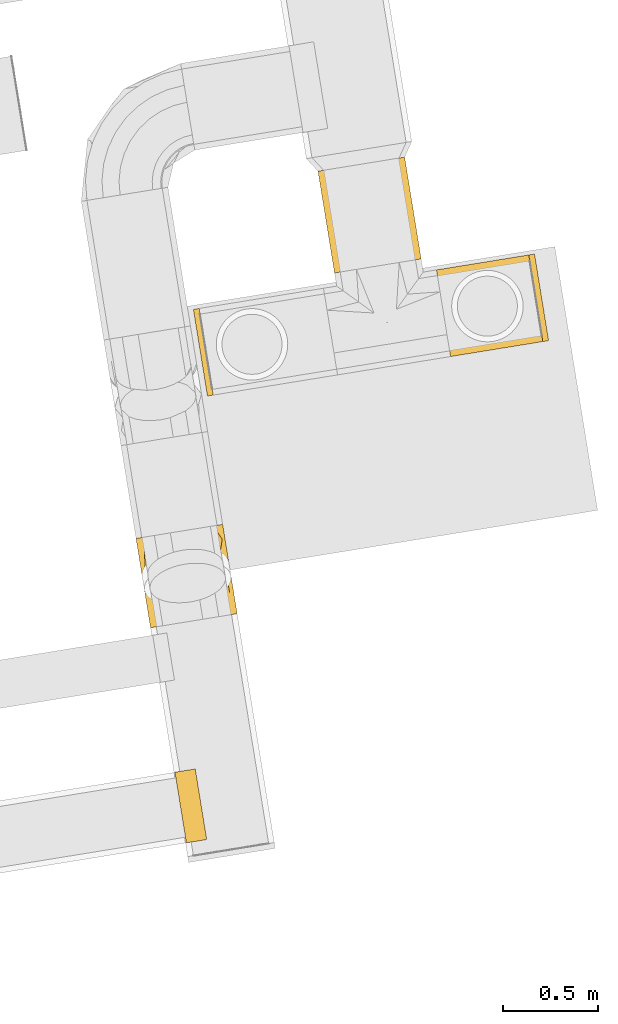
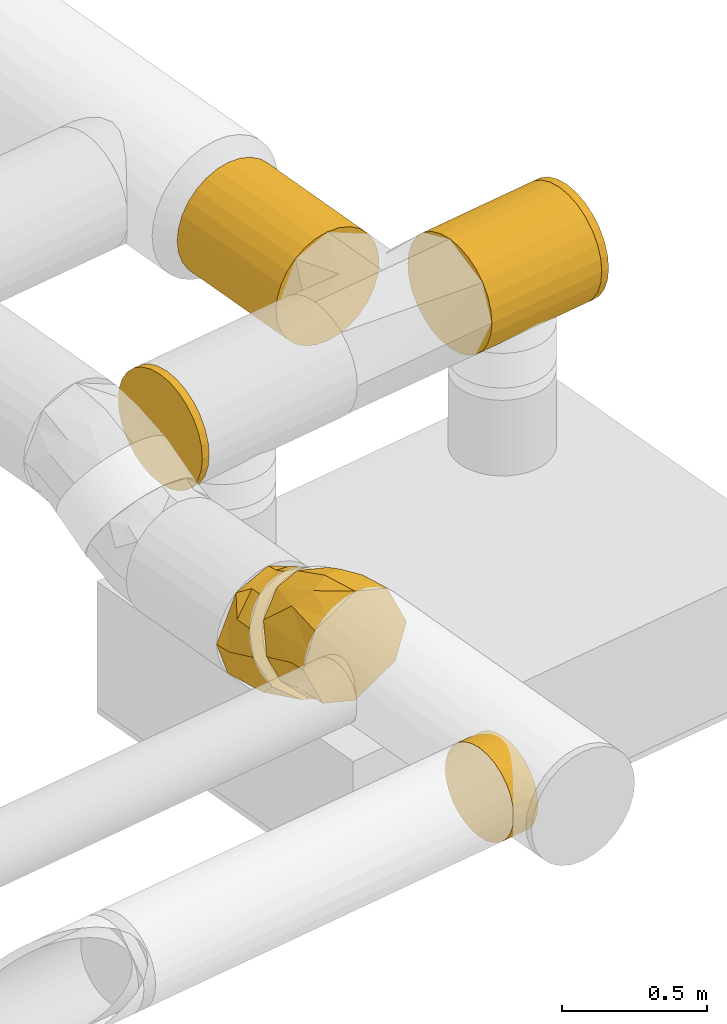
# One storey, part 8 of 39: 7 coverings.
"""IFC2X3 building model written with IfcOpenShell, lengths in millimetres."""

import ifcopenshell
import ifcopenshell.guid

model = None  # the IFC model being written
_history = None  # IfcOwnerHistory: only IFC2X3 demands one
_inside = {}  # id of a spatial element -> (the spatial element, [elements in it])
_under = {}  # id of a project, library or spatial element -> (it, [spatial elements below it])
_declared = {}  # id of a project -> (the project, [libraries it declares])
_typed = {}  # id of a type object -> (the type object, [elements of that type])
_made_of = {}  # id of a material, layer set ... -> (it, [elements and type objects made of it])


def new_model(schema):
    """Start an empty IFC model of exactly this schema.

    Asked for "IFC4X3", IfcOpenShell would pick the latest addendum, in which some entities
    have other attributes; the version numbers below select the first issue.
    IFC2X3 requires an IfcOwnerHistory on every rooted entity: one is made here for all.
    """
    global model, _history
    if schema == "IFC4X3":
        model = ifcopenshell.file(schema_version=(4, 3, 0, 0))
    else:
        model = ifcopenshell.file(schema=schema)
    _inside.clear()
    _under.clear()
    _declared.clear()
    _typed.clear()
    _made_of.clear()
    _history = None
    if model.schema == "IFC2X3":
        org = make("IfcOrganization", Name="unknown")
        user = make(
            "IfcPersonAndOrganization",
            ThePerson=make("IfcPerson", FamilyName="unknown"),
            TheOrganization=org,
        )
        app = make(
            "IfcApplication",
            ApplicationDeveloper=org,
            Version="unknown",
            ApplicationFullName="unknown",
            ApplicationIdentifier="unknown",
        )
        _history = make(
            "IfcOwnerHistory",
            OwningUser=user,
            OwningApplication=app,
            ChangeAction="ADDED",
            CreationDate=0,
        )
    return model


def make(cls, **values):
    """One entity of the class cls with the attributes given. An attribute that is None is left unset."""
    return model.create_entity(
        cls, **{name: value for name, value in values.items() if value is not None}
    )


def entity(cls, *values):
    """Any entity or typed value of the class cls, its attributes in the order of the schema. None: left unset."""
    e = model.create_entity(cls)
    for i, value in enumerate(values):
        if value is not None:
            e[i] = value
    return e


def rooted(cls, **values):
    """An entity with a GlobalId (a new one), such as an element, a storey or a relation."""
    return make(cls, GlobalId=ifcopenshell.guid.new(), OwnerHistory=_history, **values)


def si_unit(unit_type, name, prefix=None):
    """IfcSIUnit, for example si_unit("LENGTHUNIT", "METRE", prefix="MILLI")."""
    return make("IfcSIUnit", UnitType=unit_type, Prefix=prefix, Name=name)


def converted_unit(unit_type, name, factor, base, dimensions=None, offset=None):
    """IfcConversionBasedUnit, such as the inch: factor (a typed value) times the base unit."""
    return make(
        "IfcConversionBasedUnit"
        if offset is None
        else "IfcConversionBasedUnitWithOffset",
        ConversionOffset=offset,
        Dimensions=None
        if dimensions is None
        else entity("IfcDimensionalExponents", *dimensions),
        UnitType=unit_type,
        Name=name,
        ConversionFactor=make(
            "IfcMeasureWithUnit", ValueComponent=factor, UnitComponent=base
        ),
    )


def derived_unit(unit_type, elements):
    """IfcDerivedUnit: a product of units, each with its exponent."""
    return make(
        "IfcDerivedUnit",
        Elements=[
            make("IfcDerivedUnitElement", Unit=unit, Exponent=power)
            for unit, power in elements
        ],
        UnitType=unit_type,
    )


def assignment(units):
    """IfcUnitAssignment: the units of a project."""
    return None if units is None else make("IfcUnitAssignment", Units=units)


def point(xyz):
    """IfcCartesianPoint."""
    return None if xyz is None else make("IfcCartesianPoint", Coordinates=xyz)


def direction(xyz):
    """IfcDirection."""
    return None if xyz is None else make("IfcDirection", DirectionRatios=xyz)


def frame(location, z_axis=None, x_axis=None):
    """IfcAxis2Placement3D, a coordinate frame: its origin and axes. An axis left out is left unset."""
    return make(
        "IfcAxis2Placement3D",
        Location=point(location),
        Axis=direction(z_axis),
        RefDirection=direction(x_axis),
    )


def origin():
    """The frame at (0, 0, 0) with its axes left unset."""
    return frame((0.0, 0.0, 0.0))


def origin_with_axes():
    """The frame at (0, 0, 0) with the z axis (0, 0, 1) and the x axis (1, 0, 0) written out."""
    return frame((0.0, 0.0, 0.0), z_axis=(0.0, 0.0, 1.0), x_axis=(1.0, 0.0, 0.0))


def place(relative_to, where):
    """IfcLocalPlacement: puts the frame where relative to a parent placement (None: the world)."""
    return make(
        "IfcLocalPlacement", PlacementRelTo=relative_to, RelativePlacement=where
    )


def context(
    kind, dimensions, precision=None, world=None, true_north=None, identifier=None
):
    """IfcGeometricRepresentationContext, for example the 3D "Model" context."""
    return make(
        "IfcGeometricRepresentationContext",
        ContextIdentifier=identifier,
        ContextType=kind,
        CoordinateSpaceDimension=dimensions,
        Precision=precision,
        WorldCoordinateSystem=world,
        TrueNorth=true_north,
    )


def subcontext(parent, identifier, kind, view, scale=None):
    """IfcGeometricRepresentationSubContext, for example "Body" below "Model"."""
    return make(
        "IfcGeometricRepresentationSubContext",
        ContextIdentifier=identifier,
        ContextType=kind,
        ParentContext=parent,
        TargetScale=scale,
        TargetView=view,
    )


def project(units=None, contexts=None):
    """IfcProject with its units and contexts."""
    return rooted(
        "IfcProject",
        Name="project",
        RepresentationContexts=contexts,
        UnitsInContext=assignment(units),
    )


def spatial(cls, under=None, at=None, **own):
    """A site, building, storey or space (cls), placed at a placement, below another one or the project."""
    s = rooted(cls, ObjectPlacement=at, **own)
    if under is not None:
        _under.setdefault(under.id(), (under, []))[1].append(s)
    return s


def faces_of(points, faces, orient=None, outer=None):
    """IfcFace entities. A face is a list of loops; a loop is a list of indices into points, from 0.

    orient and outer hold one flag for each loop. By default every Orientation is true, the
    first loop of a face is its IfcFaceOuterBound and the others are IfcFaceBound.
    """
    made = []
    for i, loops in enumerate(faces):
        bounds = []
        for j, loop in enumerate(loops):
            is_outer = j == 0 if outer is None else outer[i][j]
            bounds.append(
                make(
                    "IfcFaceOuterBound" if is_outer else "IfcFaceBound",
                    Bound=make("IfcPolyLoop", Polygon=[points[k] for k in loop]),
                    Orientation=True if orient is None else orient[i][j],
                )
            )
        made.append(make("IfcFace", Bounds=bounds))
    return made


def faceted_brep(points, faces, orient=None, outer=None, voids=None):
    """IfcFacetedBrep: a solid bounded by flat faces; with voids (closed shells), ...WithVoids."""
    shared = [point(p) for p in points]
    hull = make("IfcClosedShell", CfsFaces=faces_of(shared, faces, orient, outer))
    if voids is None:
        return make("IfcFacetedBrep", Outer=hull)
    return make(
        "IfcFacetedBrepWithVoids",
        Outer=hull,
        Voids=[
            make(cls, CfsFaces=faces_of(shared, fs, o, b)) for cls, fs, o, b in voids
        ],
    )


def shape(context_of_items, identifier, shape_type, items):
    """IfcShapeRepresentation: the items that make up one representation, for example the "Body"."""
    return make(
        "IfcShapeRepresentation",
        ContextOfItems=context_of_items,
        RepresentationIdentifier=identifier,
        RepresentationType=shape_type,
        Items=items,
    )


def made_of(thing, what):
    """Note that an element or type object is made of a material, layer set ...; save() writes the relation."""
    if what is not None:
        _made_of.setdefault(what.id(), (what, []))[1].append(thing)
    return thing


def type_object(cls, material=None, **own):
    """A type object (cls), such as IfcWallType, which elements share."""
    return made_of(rooted(cls, **own), material)


def element(
    cls,
    number,
    at=None,
    inside=None,
    cuts=None,
    type_object=None,
    material=None,
    context=None,
    identifier="Body",
    shape_type=None,
    held_by="IfcProductDefinitionShape",
    body=None,
    shapes=None,
    **own,
):
    """One element of the class cls, such as IfcWall. Its Tag is "e" and its number.

    at: its placement. inside: the storey or other place that contains it. cuts: it is an
    opening in that element (IfcRelVoidsElement). A single representation is given by context,
    identifier, shape_type and body (its items); several are given by shapes. held_by: the class
    of the entity that holds the representations. save() writes the other relations.
    """
    e = rooted(cls, Tag="e%d" % number, ObjectPlacement=at, **own)
    if body is not None:
        shapes = [shape(context, identifier, shape_type, body)]
    if shapes is not None:
        e.Representation = make(held_by, Representations=shapes)
    if inside is not None:
        _inside.setdefault(inside.id(), (inside, []))[1].append(e)
    if cuts is not None:
        rooted(
            "IfcRelVoidsElement", RelatingBuildingElement=cuts, RelatedOpeningElement=e
        )
    if type_object is not None:
        _typed.setdefault(type_object.id(), (type_object, []))[1].append(e)
    return made_of(e, material)


def aggregate(whole, parts):
    """IfcRelAggregates: a whole, such as a stair, and the parts it consists of."""
    return rooted("IfcRelAggregates", RelatingObject=whole, RelatedObjects=parts)


def save(model, path):
    """Write the relations noted so far, then the file.

    IfcRelAggregates (storeys below a building ...), IfcRelContainedInSpatialStructure (elements
    in a storey), IfcRelDefinesByType, IfcRelAssociatesMaterial and IfcRelDeclares: one each for
    every whole, place, type object, material and project.
    """
    for whole, parts in _under.values():
        aggregate(whole, parts)
    for where, things in _inside.values():
        rooted(
            "IfcRelContainedInSpatialStructure",
            RelatedElements=things,
            RelatingStructure=where,
        )
    for kind, things in _typed.values():
        rooted("IfcRelDefinesByType", RelatedObjects=things, RelatingType=kind)
    for what, things in _made_of.values():
        rooted("IfcRelAssociatesMaterial", RelatedObjects=things, RelatingMaterial=what)
    for by, libraries in _declared.values():
        rooted("IfcRelDeclares", RelatingContext=by, RelatedDefinitions=libraries)
    model.write(path)


model = new_model("IFC2X3")

# Units and contexts
model_context = context("Model", 3, precision=0.01, world=origin(), true_north=direction((6.12323399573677e-17, 1.0)))
plan_context = context("Plan", 3, precision=1e-05, world=origin_with_axes())
body_context = subcontext(model_context, "Body", "Model", "MODEL_VIEW")
ifc_project = project(units=[converted_unit("PLANEANGLEUNIT", "DEGREE", entity("IfcPositiveLengthMeasure", 0.0174532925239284), si_unit("PLANEANGLEUNIT", "RADIAN"), dimensions=[0, 0, 0, 0, 0, 0, 0]), si_unit("AREAUNIT", "SQUARE_METRE"), si_unit("LENGTHUNIT", "METRE", prefix="MILLI"), si_unit("MASSUNIT", "GRAM", prefix="KILO"), si_unit("POWERUNIT", "WATT"), si_unit("PRESSUREUNIT", "PASCAL", prefix="KILO"), si_unit("FORCEUNIT", "NEWTON", prefix="KILO"), si_unit("ELECTRICVOLTAGEUNIT", "VOLT"), si_unit("ELECTRICCURRENTUNIT", "AMPERE"), si_unit("THERMODYNAMICTEMPERATUREUNIT", "DEGREE_CELSIUS"), si_unit("TIMEUNIT", "SECOND"), si_unit("VOLUMEUNIT", "CUBIC_METRE"), derived_unit("LINEARVELOCITYUNIT", [(si_unit("LENGTHUNIT", "METRE"), 1), (si_unit("TIMEUNIT", "SECOND"), -1)]), derived_unit("VOLUMETRICFLOWRATEUNIT", [(si_unit("VOLUMEUNIT", "CUBIC_METRE"), 1), (si_unit("TIMEUNIT", "SECOND"), -1)]), derived_unit("THERMALTRANSMITTANCEUNIT", [(si_unit("POWERUNIT", "WATT"), 1), (si_unit("THERMODYNAMICTEMPERATUREUNIT", "KELVIN"), -1), (si_unit("AREAUNIT", "SQUARE_METRE"), -1)]), derived_unit("SOUNDPRESSUREUNIT", [(si_unit("PRESSUREUNIT", "PASCAL"), 1)])], contexts=[model_context, plan_context])

# Site, building, storey
site_placement = place(None, frame((-0.00071070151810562, 0.00438415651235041, 0.0), z_axis=(0.0, 0.0, 1.0), x_axis=(-0.160236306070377, 0.987078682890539, 0.0)))
site = spatial("IfcSite", under=ifc_project, at=site_placement, Name="Default", CompositionType="ELEMENT")
building_placement = place(site_placement, origin_with_axes())
building = spatial("IfcBuilding", under=site, at=building_placement, CompositionType="ELEMENT")
storey_placement = place(building_placement, frame((0.0, 0.0, 50999.9999999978), z_axis=(0.0, 0.0, 1.0), x_axis=(1.0, 0.0, 0.0)))
storey = spatial("IfcBuildingStorey", under=building, at=storey_placement, Name="Nivå D", CompositionType="ELEMENT", Elevation=50999.9999999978)

# Coverings
covering_type = type_object("IfcCoveringType", Name="Duct Insulation:EI 60-30", PredefinedType="INSULATION")
covering_1_placement = place(storey_placement, frame((771340.02437183, -602762.905078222, 3068.40472776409), z_axis=(0.0, 0.0, 1.0), x_axis=(1.0, 0.0, 0.0)))
element("IfcCovering", 1, at=covering_1_placement, inside=storey, type_object=covering_type, Name="Duct Insulation:EI 60-30", ObjectType="Duct Insulation:EI 60-30", PredefinedType="INSULATION", context=body_context, shape_type="Brep", body=[
    faceted_brep([(131.802012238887, 490.0, 438.818111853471), (180.415457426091, 490.0, 455.828692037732), (231.595272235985, 490.0, 461.595272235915), (282.775087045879, 490.0, 455.828692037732), (331.388532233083, 490.0, 438.818111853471), (374.997926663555, 490.0, 411.416513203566), (411.416513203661, 490.0, 374.997926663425), (438.818111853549, 490.0, 331.388532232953), (455.828692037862, 490.0, 282.77508704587), (461.595272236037, 490.0, 231.595272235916), (455.828692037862, 490.0, 180.415457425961), (438.818111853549, 490.0, 131.802012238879), (411.416513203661, 490.0, 88.1926178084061), (374.997926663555, 490.0, 51.774031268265), (331.388532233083, 490.0, 24.3724326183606), (282.775087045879, 490.0, 7.36185243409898), (231.595272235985, 490.0, 1.5952722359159), (180.415457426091, 490.0, 7.36185243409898), (131.802012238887, 490.0, 24.3724326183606), (88.1926178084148, 490.0, 51.774031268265), (51.7740312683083, 490.0, 88.1926178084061), (24.3724326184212, 490.0, 131.802012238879), (7.36185243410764, 490.0, 180.415457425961), (1.59527223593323, 490.0, 231.595272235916), (7.36185243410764, 490.0, 282.77508704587), (24.3724326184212, 490.0, 331.388532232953), (51.7740312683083, 490.0, 374.997926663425), (88.1926178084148, 490.0, 411.416513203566), (51.7740312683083, 0.0, 374.997926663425), (24.3724326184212, 0.0, 331.388532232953), (7.36185243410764, 0.0, 282.77508704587), (1.59527223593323, 0.0, 231.595272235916), (7.36185243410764, 0.0, 180.415457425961), (24.3724326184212, 0.0, 131.802012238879), (51.7740312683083, 0.0, 88.1926178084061), (88.1926178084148, 0.0, 51.774031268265), (131.802012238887, 0.0, 24.3724326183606), (180.415457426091, 0.0, 7.36185243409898), (231.595272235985, 0.0, 1.5952722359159), (282.775087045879, 0.0, 7.36185243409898), (331.388532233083, 0.0, 24.3724326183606), (374.997926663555, 0.0, 51.774031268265), (411.416513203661, 0.0, 88.1926178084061), (438.818111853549, 0.0, 131.802012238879), (455.828692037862, 0.0, 180.415457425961), (461.595272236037, 0.0, 231.595272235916), (455.828692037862, 0.0, 282.77508704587), (438.818111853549, 0.0, 331.388532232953), (411.416513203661, 0.0, 374.997926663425), (374.997926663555, 0.0, 411.416513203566), (331.388532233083, 0.0, 438.818111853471), (282.775087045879, 0.0, 455.828692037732), (231.595272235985, 0.0, 461.595272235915), (180.415457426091, 0.0, 455.828692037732), (131.802012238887, 0.0, 438.818111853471), (88.1926178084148, 0.0, 411.416513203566)], [[[0, 1, 2, 3, 4, 5, 6, 7, 8, 9, 10, 11, 12, 13, 14, 15, 16, 17, 18, 19, 20, 21, 22, 23, 24, 25, 26, 27]], [[28, 29, 30, 31, 32, 33, 34, 35, 36, 37, 38, 39, 40, 41, 42, 43, 44, 45, 46, 47, 48, 49, 50, 51, 52, 53, 54, 55]], [[45, 44, 10, 9]], [[44, 43, 11, 10]], [[12, 11, 43, 42]], [[42, 41, 13, 12]], [[14, 13, 41, 40]], [[15, 14, 40, 39]], [[16, 15, 39, 38]], [[17, 16, 38, 37]], [[18, 17, 37, 36]], [[19, 18, 36, 35]], [[35, 34, 20, 19]], [[21, 20, 34, 33]], [[22, 21, 33, 32]], [[23, 22, 32, 31]], [[24, 23, 31, 30]], [[25, 24, 30, 29]], [[26, 25, 29, 28]], [[28, 55, 27, 26]], [[0, 27, 55, 54]], [[1, 0, 54, 53]], [[2, 1, 53, 52]], [[3, 2, 52, 51]], [[4, 3, 51, 50]], [[5, 4, 50, 49]], [[49, 48, 6, 5]], [[7, 6, 48, 47]], [[8, 7, 47, 46]], [[9, 8, 46, 45]]]),
])
covering_2_placement = place(storey_placement, frame((771871.619644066, -602204.500350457, 3068.40472776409), z_axis=(0.0, 0.0, 1.0), x_axis=(1.0, 0.0, 0.0)))
element("IfcCovering", 2, at=covering_2_placement, inside=storey, type_object=covering_type, Name="Duct Insulation:EI 60-30", ObjectType="Duct Insulation:EI 60-30", PredefinedType="INSULATION", context=body_context, shape_type="Brep", body=[
    faceted_brep([(540.312480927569, 438.818111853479, 131.802012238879), (540.312480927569, 455.828692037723, 180.415457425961), (540.312480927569, 461.595272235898, 231.595272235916), (540.312480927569, 455.828692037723, 282.77508704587), (540.312480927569, 438.818111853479, 331.388532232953), (540.312480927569, 411.416513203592, 374.997926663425), (540.312480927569, 374.997926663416, 411.416513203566), (540.312480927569, 331.388532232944, 438.818111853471), (540.312480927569, 282.775087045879, 455.828692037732), (540.312480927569, 231.595272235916, 461.595272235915), (540.312480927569, 180.415457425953, 455.828692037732), (540.312480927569, 131.802012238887, 438.818111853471), (540.312480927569, 88.1926178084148, 411.416513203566), (540.312480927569, 51.774031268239, 374.997926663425), (540.312480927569, 24.3724326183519, 331.388532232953), (540.312480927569, 7.36185243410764, 282.77508704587), (540.312480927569, 1.59527223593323, 231.595272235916), (540.312480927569, 7.36185243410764, 180.415457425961), (540.312480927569, 24.3724326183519, 131.802012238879), (540.312480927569, 51.774031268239, 88.1926178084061), (540.312480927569, 88.1926178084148, 51.774031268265), (540.312480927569, 131.802012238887, 24.3724326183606), (540.312480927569, 180.415457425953, 7.36185243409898), (540.312480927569, 231.595272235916, 1.5952722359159), (540.312480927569, 282.775087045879, 7.36185243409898), (540.312480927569, 331.388532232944, 24.3724326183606), (540.312480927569, 374.997926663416, 51.774031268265), (540.312480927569, 411.416513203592, 88.1926178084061), (0.0, 374.997926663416, 51.774031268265), (0.0, 331.388532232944, 24.3724326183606), (0.0, 282.775087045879, 7.36185243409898), (0.0, 231.595272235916, 1.5952722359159), (0.0, 180.415457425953, 7.36185243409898), (0.0, 131.802012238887, 24.3724326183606), (0.0, 88.1926178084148, 51.774031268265), (0.0, 51.774031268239, 88.1926178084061), (0.0, 24.3724326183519, 131.802012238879), (0.0, 7.36185243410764, 180.415457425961), (0.0, 1.59527223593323, 231.595272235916), (0.0, 7.36185243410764, 282.77508704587), (0.0, 24.3724326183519, 331.388532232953), (0.0, 51.774031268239, 374.997926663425), (0.0, 88.1926178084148, 411.416513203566), (0.0, 131.802012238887, 438.818111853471), (0.0, 180.415457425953, 455.828692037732), (0.0, 231.595272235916, 461.595272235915), (0.0, 282.775087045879, 455.828692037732), (0.0, 331.388532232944, 438.818111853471), (0.0, 374.997926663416, 411.416513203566), (0.0, 411.416513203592, 374.997926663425), (0.0, 438.818111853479, 331.388532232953), (0.0, 455.828692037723, 282.77508704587), (0.0, 461.595272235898, 231.595272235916), (0.0, 455.828692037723, 180.415457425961), (0.0, 438.818111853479, 131.802012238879), (0.0, 411.416513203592, 88.1926178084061)], [[[0, 1, 2, 3, 4, 5, 6, 7, 8, 9, 10, 11, 12, 13, 14, 15, 16, 17, 18, 19, 20, 21, 22, 23, 24, 25, 26, 27]], [[28, 29, 30, 31, 32, 33, 34, 35, 36, 37, 38, 39, 40, 41, 42, 43, 44, 45, 46, 47, 48, 49, 50, 51, 52, 53, 54, 55]], [[38, 37, 17, 16]], [[37, 36, 18, 17]], [[19, 18, 36, 35]], [[35, 34, 20, 19]], [[21, 20, 34, 33]], [[22, 21, 33, 32]], [[23, 22, 32, 31]], [[24, 23, 31, 30]], [[25, 24, 30, 29]], [[26, 25, 29, 28]], [[28, 55, 27, 26]], [[0, 27, 55, 54]], [[1, 0, 54, 53]], [[2, 1, 53, 52]], [[3, 2, 52, 51]], [[4, 3, 51, 50]], [[5, 4, 50, 49]], [[49, 48, 6, 5]], [[7, 6, 48, 47]], [[8, 7, 47, 46]], [[9, 8, 46, 45]], [[10, 9, 45, 44]], [[11, 10, 44, 43]], [[12, 11, 43, 42]], [[42, 41, 13, 12]], [[14, 13, 41, 40]], [[15, 14, 40, 39]], [[16, 15, 39, 38]]]),
])
covering_3_placement = place(storey_placement, frame((771340.02437183, -602793.705078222, 3068.40472776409), z_axis=(0.0, 0.0, 1.0), x_axis=(1.0, 0.0, 0.0)))
element("IfcCovering", 3, at=covering_3_placement, inside=storey, type_object=covering_type, Name="Duct Insulation:EI 60-30", ObjectType="Duct Insulation:EI 60-30", PredefinedType="INSULATION", context=body_context, shape_type="Brep", body=[
    faceted_brep([(282.775087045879, 0.0, 7.36185243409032), (331.388532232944, 0.0, 24.3724326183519), (374.997926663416, 0.0, 51.774031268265), (411.416513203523, 0.0, 88.1926178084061), (438.81811185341, 0.0, 131.802012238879), (455.828692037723, 0.0, 180.415457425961), (461.595272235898, 0.0, 231.595272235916), (455.828692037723, 0.0, 282.77508704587), (438.81811185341, 0.0, 331.388532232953), (411.416513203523, 0.0, 374.997926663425), (374.997926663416, 0.0, 411.416513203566), (331.388532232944, 0.0, 438.818111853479), (282.775087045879, 0.0, 455.828692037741), (231.595272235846, 0.0, 461.595272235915), (180.415457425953, 0.0, 455.828692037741), (131.802012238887, 0.0, 438.818111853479), (88.1926178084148, 0.0, 411.416513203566), (51.7740312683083, 0.0, 374.997926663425), (24.3724326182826, 0.0, 331.388532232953), (7.36185243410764, 0.0, 282.77508704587), (1.59527223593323, 0.0, 231.595272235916), (7.36185243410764, 0.0, 180.415457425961), (24.3724326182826, 0.0, 131.802012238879), (51.7740312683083, 0.0, 88.1926178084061), (88.1926178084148, 0.0, 51.774031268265), (131.802012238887, 0.0, 24.3724326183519), (180.415457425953, 0.0, 7.36185243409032), (231.595272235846, 0.0, 1.5952722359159), (180.415457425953, 30.8000000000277, 455.828692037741), (231.595272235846, 30.8000000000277, 461.595272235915), (282.775087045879, 30.8000000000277, 455.828692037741), (331.388532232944, 30.8000000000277, 438.818111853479), (374.997926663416, 30.8000000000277, 411.416513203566), (411.416513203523, 30.8000000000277, 374.997926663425), (438.81811185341, 30.8000000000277, 331.388532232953), (455.828692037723, 30.8000000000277, 282.77508704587), (461.595272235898, 30.8000000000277, 231.595272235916), (455.828692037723, 30.8000000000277, 180.415457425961), (438.81811185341, 30.8000000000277, 131.802012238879), (411.416513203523, 30.8000000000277, 88.1926178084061), (374.997926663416, 30.8000000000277, 51.774031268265), (331.388532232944, 30.8000000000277, 24.3724326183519), (282.775087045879, 30.8000000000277, 7.36185243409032), (231.595272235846, 30.8000000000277, 1.5952722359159), (180.415457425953, 30.8000000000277, 7.36185243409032), (131.802012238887, 30.8000000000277, 24.3724326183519), (88.1926178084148, 30.8000000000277, 51.774031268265), (51.7740312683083, 30.8000000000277, 88.1926178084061), (24.3724326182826, 30.8000000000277, 131.802012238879), (7.36185243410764, 30.8000000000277, 180.415457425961), (1.59527223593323, 30.8000000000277, 231.595272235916), (7.36185243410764, 30.8000000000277, 282.77508704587), (24.3724326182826, 30.8000000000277, 331.388532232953), (51.7740312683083, 30.8000000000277, 374.997926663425), (88.1926178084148, 30.8000000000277, 411.416513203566), (131.802012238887, 30.8000000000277, 438.818111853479)], [[[0, 1, 2, 3, 4, 5, 6, 7, 8, 9, 10, 11, 12, 13, 14, 15, 16, 17, 18, 19, 20, 21, 22, 23, 24, 25, 26, 27]], [[28, 29, 30, 31, 32, 33, 34, 35, 36, 37, 38, 39, 40, 41, 42, 43, 44, 45, 46, 47, 48, 49, 50, 51, 52, 53, 54, 55]], [[7, 6, 36, 35]], [[35, 34, 8, 7]], [[33, 9, 8, 34]], [[33, 32, 10, 9]], [[11, 10, 32, 31]], [[11, 31, 30, 12]], [[12, 30, 29, 13]], [[14, 13, 29, 28]], [[28, 55, 15, 14]], [[54, 16, 15, 55]], [[54, 53, 17, 16]], [[53, 52, 18, 17]], [[52, 51, 19, 18]], [[19, 51, 50, 20]], [[21, 20, 50, 49]], [[49, 48, 22, 21]], [[47, 23, 22, 48]], [[47, 46, 24, 23]], [[25, 24, 46, 45]], [[44, 43, 27, 26]], [[26, 25, 45, 44]], [[0, 27, 43, 42]], [[42, 41, 1, 0]], [[40, 2, 1, 41]], [[40, 39, 3, 2]], [[4, 3, 39, 38]], [[38, 37, 5, 4]], [[36, 6, 5, 37]]]),
])
covering_4_placement = place(storey_placement, frame((771340.02437183, -601012.905078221, 3068.40472776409), z_axis=(0.0, 0.0, 1.0), x_axis=(1.0, 0.0, 0.0)))
element("IfcCovering", 4, at=covering_4_placement, inside=storey, type_object=covering_type, Name="Duct Insulation:EI 60-30", ObjectType="Duct Insulation:EI 60-30", PredefinedType="INSULATION", context=body_context, shape_type="Brep", body=[
    faceted_brep([(180.415457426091, 30.8000000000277, 7.36185243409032), (131.802012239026, 30.8000000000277, 24.3724326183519), (88.1926178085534, 30.8000000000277, 51.774031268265), (51.7740312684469, 30.8000000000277, 88.1926178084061), (24.3724326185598, 30.8000000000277, 131.802012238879), (7.36185243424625, 30.8000000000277, 180.415457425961), (1.59527223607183, 30.8000000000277, 231.595272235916), (7.36185243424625, 30.8000000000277, 282.77508704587), (24.3724326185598, 30.8000000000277, 331.388532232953), (51.7740312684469, 30.8000000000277, 374.997926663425), (88.1926178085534, 30.8000000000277, 411.416513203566), (131.802012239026, 30.8000000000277, 438.818111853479), (180.415457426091, 30.8000000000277, 455.828692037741), (231.595272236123, 30.8000000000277, 461.595272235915), (282.775087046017, 30.8000000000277, 455.828692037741), (331.388532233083, 30.8000000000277, 438.818111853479), (374.997926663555, 30.8000000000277, 411.416513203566), (411.416513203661, 30.8000000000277, 374.997926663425), (438.818111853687, 30.8000000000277, 331.388532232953), (455.828692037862, 30.8000000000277, 282.77508704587), (461.595272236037, 30.8000000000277, 231.595272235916), (455.828692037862, 30.8000000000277, 180.415457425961), (438.818111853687, 30.8000000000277, 131.802012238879), (411.416513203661, 30.8000000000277, 88.1926178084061), (374.997926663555, 30.8000000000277, 51.774031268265), (331.388532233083, 30.8000000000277, 24.3724326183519), (282.775087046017, 30.8000000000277, 7.36185243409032), (231.595272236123, 30.8000000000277, 1.5952722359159), (282.775087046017, 0.0, 455.828692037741), (231.595272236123, 0.0, 461.595272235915), (180.415457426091, 0.0, 455.828692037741), (131.802012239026, 0.0, 438.818111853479), (88.1926178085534, 0.0, 411.416513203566), (51.7740312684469, 0.0, 374.997926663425), (24.3724326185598, 0.0, 331.388532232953), (7.36185243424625, 0.0, 282.77508704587), (1.59527223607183, 0.0, 231.595272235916), (7.36185243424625, 0.0, 180.415457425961), (24.3724326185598, 0.0, 131.802012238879), (51.7740312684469, 0.0, 88.1926178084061), (88.1926178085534, 0.0, 51.774031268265), (131.802012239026, 0.0, 24.3724326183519), (180.415457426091, 0.0, 7.36185243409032), (231.595272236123, 0.0, 1.5952722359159), (282.775087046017, 0.0, 7.36185243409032), (331.388532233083, 0.0, 24.3724326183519), (374.997926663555, 0.0, 51.774031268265), (411.416513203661, 0.0, 88.1926178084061), (438.818111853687, 0.0, 131.802012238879), (455.828692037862, 0.0, 180.415457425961), (461.595272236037, 0.0, 231.595272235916), (455.828692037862, 0.0, 282.77508704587), (438.818111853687, 0.0, 331.388532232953), (411.416513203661, 0.0, 374.997926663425), (374.997926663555, 0.0, 411.416513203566), (331.388532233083, 0.0, 438.818111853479)], [[[0, 1, 2, 3, 4, 5, 6, 7, 8, 9, 10, 11, 12, 13, 14, 15, 16, 17, 18, 19, 20, 21, 22, 23, 24, 25, 26, 27]], [[28, 29, 30, 31, 32, 33, 34, 35, 36, 37, 38, 39, 40, 41, 42, 43, 44, 45, 46, 47, 48, 49, 50, 51, 52, 53, 54, 55]], [[7, 6, 36, 35]], [[35, 34, 8, 7]], [[33, 9, 8, 34]], [[33, 32, 10, 9]], [[11, 10, 32, 31]], [[11, 31, 30, 12]], [[12, 30, 29, 13]], [[14, 13, 29, 28]], [[28, 55, 15, 14]], [[54, 16, 15, 55]], [[54, 53, 17, 16]], [[53, 52, 18, 17]], [[52, 51, 19, 18]], [[19, 51, 50, 20]], [[21, 20, 50, 49]], [[49, 48, 22, 21]], [[47, 23, 22, 48]], [[47, 46, 24, 23]], [[25, 24, 46, 45]], [[44, 43, 27, 26]], [[26, 25, 45, 44]], [[0, 27, 43, 42]], [[42, 41, 1, 0]], [[40, 2, 1, 41]], [[40, 39, 3, 2]], [[4, 3, 39, 38]], [[38, 37, 5, 4]], [[36, 6, 5, 37]]]),
])
covering_5_placement = place(storey_placement, frame((769045.737380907, -600605.738147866, 3060.90472776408), z_axis=(0.0, 0.0, 1.0), x_axis=(1.0, 0.0, 0.0)))
element("IfcCovering", 5, at=covering_5_placement, inside=storey, type_object=covering_type, Name="Duct Insulation:EI 60-30", ObjectType="Duct Insulation:EI 60-30", PredefinedType="INSULATION", context=body_context, shape_type="Brep", body=[
    faceted_brep([(270.448473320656, 0.0, 20.1636095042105), (305.999610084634, 0.0, 42.5018692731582), (335.688675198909, 0.0, 72.1909343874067), (358.026934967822, 0.0, 107.742071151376), (371.894255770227, 0.0, 147.372597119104), (376.595272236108, 0.0, 189.095272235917), (371.894255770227, 0.0, 230.817947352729), (358.026934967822, 0.0, 270.448473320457), (335.688675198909, 0.0, 305.999610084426), (305.999610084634, 0.0, 335.688675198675), (270.448473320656, 0.0, 358.026934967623), (230.817947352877, 0.0, 371.894255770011), (189.095272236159, 0.0, 376.595272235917), (147.372597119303, 0.0, 371.894255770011), (107.742071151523, 0.0, 358.026934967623), (72.1909343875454, 0.0, 335.688675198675), (42.5018692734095, 0.0, 305.999610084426), (20.1636095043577, 0.0, 270.448473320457), (6.29628870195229, 0.0, 230.817947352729), (1.59527223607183, 0.0, 189.095272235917), (6.29628870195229, 0.0, 147.372597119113), (20.1636095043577, 0.0, 107.742071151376), (42.5018692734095, 0.0, 72.1909343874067), (72.1909343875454, 0.0, 42.5018692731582), (107.742071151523, 0.0, 20.1636095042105), (147.372597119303, 0.0, 6.29628870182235), (189.095272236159, 0.0, 1.5952722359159), (230.817947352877, 0.0, 6.29628870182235), (147.372597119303, 107.833069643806, 371.894255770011), (189.095272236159, 107.833069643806, 376.595272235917), (230.817947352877, 107.833069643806, 371.894255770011), (270.448473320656, 107.833069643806, 358.026934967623), (305.999610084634, 107.833069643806, 335.688675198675), (335.688675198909, 107.833069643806, 305.999610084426), (358.026934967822, 107.833069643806, 270.448473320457), (371.894255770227, 107.833069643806, 230.817947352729), (376.595272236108, 107.833069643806, 189.095272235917), (371.894255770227, 107.833069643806, 147.372597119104), (358.026934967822, 107.833069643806, 107.742071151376), (335.688675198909, 107.833069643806, 72.1909343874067), (305.999610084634, 107.833069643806, 42.5018692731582), (270.448473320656, 107.833069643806, 20.1636095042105), (230.817947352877, 107.833069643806, 6.29628870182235), (189.095272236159, 107.833069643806, 1.5952722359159), (147.372597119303, 107.833069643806, 6.29628870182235), (107.742071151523, 107.833069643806, 20.1636095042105), (72.1909343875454, 107.833069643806, 42.5018692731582), (42.5018692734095, 107.833069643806, 72.1909343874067), (20.1636095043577, 107.833069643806, 107.742071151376), (6.29628870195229, 107.833069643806, 147.372597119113), (1.59527223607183, 107.833069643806, 189.095272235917), (6.29628870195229, 107.833069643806, 230.817947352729), (20.1636095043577, 107.833069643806, 270.448473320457), (42.5018692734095, 107.833069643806, 305.999610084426), (72.1909343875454, 107.833069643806, 335.688675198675), (107.742071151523, 107.833069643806, 358.026934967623)], [[[0, 1, 2, 3, 4, 5, 6, 7, 8, 9, 10, 11, 12, 13, 14, 15, 16, 17, 18, 19, 20, 21, 22, 23, 24, 25, 26, 27]], [[28, 29, 30, 31, 32, 33, 34, 35, 36, 37, 38, 39, 40, 41, 42, 43, 44, 45, 46, 47, 48, 49, 50, 51, 52, 53, 54, 55]], [[6, 5, 36, 35]], [[7, 6, 35, 34]], [[7, 34, 33, 8]], [[33, 32, 9, 8]], [[9, 32, 31, 10]], [[10, 31, 30, 11]], [[11, 30, 29, 12]], [[29, 28, 13, 12]], [[28, 55, 14, 13]], [[14, 55, 54, 15]], [[54, 53, 16, 15]], [[16, 53, 52, 17]], [[17, 52, 51, 18]], [[18, 51, 50, 19]], [[19, 50, 49, 20]], [[20, 49, 48, 21]], [[21, 48, 47, 22]], [[47, 46, 23, 22]], [[23, 46, 45, 24]], [[24, 45, 44, 25]], [[25, 44, 43, 26]], [[26, 43, 42, 27]], [[27, 42, 41, 0]], [[0, 41, 40, 1]], [[40, 39, 2, 1]], [[2, 39, 38, 3]], [[3, 38, 37, 4]], [[4, 37, 36, 5]]]),
])
covering_6_placement = place(storey_placement, frame((770348.045002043, -600954.500350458, 3354.37095359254), z_axis=(0.0, 0.0, 1.0), x_axis=(1.0, 0.0, 0.0)))
element("IfcCovering", 6, at=covering_6_placement, inside=storey, type_object=covering_type, Name="Duct Insulation:EI 60-30", ObjectType="Duct Insulation:EI 60-30", PredefinedType="INSULATION", context=body_context, shape_type="Brep", body=[
    faceted_brep([(220.207620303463, 131.805867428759, -21.3192639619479), (231.595272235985, 231.595272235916, -1.59527223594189), (213.967292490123, 353.9666687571, -32.1278287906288), (166.489974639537, 438.819968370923, -114.360955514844), (116.595272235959, 461.595272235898, -200.781115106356), (55.4095739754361, 426.339312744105, -306.757853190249), (12.9829241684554, 331.384677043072, -380.242966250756), (1.59527223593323, 231.595272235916, -399.966957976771), (19.223251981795, 109.223875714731, -369.434401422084), (66.700569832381, 24.3705761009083, -287.201274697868), (116.595272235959, 1.59527223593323, -200.781115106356), (177.780970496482, 36.851231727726, -94.8043770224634), (316.595272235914, 461.595272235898, -254.370953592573), (316.595272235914, 415.719777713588, -159.109507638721), (316.595272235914, 374.997926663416, -74.5497126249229), (316.595272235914, 284.429575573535, -42.8584759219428), (316.595272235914, 231.595272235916, -24.3709535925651), (316.595272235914, 141.684651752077, -67.6696263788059), (316.595272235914, 51.774031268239, -110.968299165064), (316.595272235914, 1.59527223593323, -254.370953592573), (316.595272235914, 59.6363087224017, -374.894407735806), (316.595272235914, 88.1926178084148, -434.192194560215), (316.595272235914, 167.011033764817, -461.771951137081), (316.595272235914, 231.595272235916, -484.370953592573), (316.595272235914, 352.988457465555, -425.911076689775), (316.595272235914, 411.416513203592, -397.773608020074), (316.595272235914, 439.211684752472, -318.339571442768), (158.261541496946, 384.068913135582, -404.225276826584), (247.136001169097, 461.595272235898, -248.294054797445), (194.734053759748, 314.075736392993, -456.872788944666), (191.293330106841, 461.595272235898, -227.968984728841), (153.539273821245, 231.595272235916, -462.904224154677), (269.854885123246, 341.739119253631, -46.865920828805), (272.596034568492, 231.595272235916, -18.5783440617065), (245.032239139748, 427.910855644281, -125.243082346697), (239.062677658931, 16.4279223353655, -163.538505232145), (248.838206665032, 65.2427385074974, -85.8275434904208), (247.136001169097, 1.59527223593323, -248.294054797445), (191.293330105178, 1.59527223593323, -227.968984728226), (196.938526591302, 22.9926164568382, -336.623877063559), (160.918705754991, 72.1935203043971, -398.337281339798), (133.460230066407, 146.05323679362, -439.900370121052)], [[[0, 1, 2, 3, 4, 5, 6, 7, 8, 9, 10, 11]], [[12, 13, 14, 15, 16, 17, 18, 19, 20, 21, 22, 23, 24, 25, 26]], [[6, 5, 27]], [[5, 26, 27]], [[28, 26, 5]], [[27, 26, 25]], [[29, 6, 27]], [[5, 4, 30, 28]], [[31, 7, 6]], [[23, 31, 29]], [[28, 12, 26]], [[29, 27, 24]], [[6, 29, 31]], [[24, 27, 25]], [[23, 29, 24]], [[32, 15, 14]], [[30, 4, 3]], [[13, 12, 28]], [[33, 16, 15]], [[28, 34, 13]], [[34, 32, 14]], [[30, 34, 28]], [[2, 32, 34]], [[32, 33, 15]], [[1, 33, 32]], [[13, 34, 14]], [[2, 34, 3]], [[34, 30, 3]], [[32, 2, 1]], [[35, 18, 36]], [[18, 35, 37]], [[33, 0, 17]], [[37, 19, 18]], [[0, 36, 17]], [[33, 1, 0]], [[16, 33, 17]], [[38, 35, 11]], [[35, 38, 37]], [[11, 10, 38]], [[11, 36, 0]], [[36, 18, 17]], [[11, 35, 36]], [[31, 23, 22]], [[39, 40, 20]], [[40, 41, 21]], [[39, 19, 37]], [[39, 37, 38, 10]], [[40, 21, 20]], [[22, 41, 31]], [[41, 7, 31]], [[21, 41, 22]], [[41, 40, 8]], [[40, 39, 9]], [[7, 41, 8]], [[39, 10, 9]], [[19, 39, 20]], [[9, 8, 40]]]),
])
covering_7_placement = place(storey_placement, frame((770188.878026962, -600954.500350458, 3481.59527223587), z_axis=(0.0, 0.0, 1.0), x_axis=(1.0, 0.0, 0.0)))
element("IfcCovering", 7, at=covering_7_placement, inside=storey, type_object=covering_type, Name="Duct Insulation:EI 60-30", ObjectType="Duct Insulation:EI 60-30", PredefinedType="INSULATION", context=body_context, shape_type="Brep", body=[
    faceted_brep([(97.9829241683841, 131.805867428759, -464.646961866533), (86.5952722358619, 231.595272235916, -484.370953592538), (104.223251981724, 353.9666687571, -453.838397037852), (151.70056983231, 438.819968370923, -371.605270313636), (201.595272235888, 461.595272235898, -285.185110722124), (262.780970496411, 426.339312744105, -179.208372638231), (305.207620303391, 331.384677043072, -105.723259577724), (316.595272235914, 231.595272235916, -85.9992678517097), (298.967292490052, 109.223875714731, -116.531824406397), (251.489974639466, 24.3705761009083, -198.764951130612), (201.595272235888, 1.59527223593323, -285.185110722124), (140.409573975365, 36.851231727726, -391.161848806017), (1.59527223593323, 461.595272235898, -231.595272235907), (1.59527223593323, 415.719777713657, -326.856718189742), (1.59527223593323, 374.997926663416, -411.416513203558), (1.59527223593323, 284.429575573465, -443.107749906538), (1.59527223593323, 231.595272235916, -461.595272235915), (1.59527223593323, 141.684651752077, -418.296599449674), (1.59527223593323, 51.774031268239, -374.997926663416), (1.59527223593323, 1.59527223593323, -231.595272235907), (1.59527223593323, 59.6363087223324, -111.071818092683), (1.59527223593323, 88.1926178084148, -51.774031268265), (1.59527223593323, 167.011033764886, -24.1942746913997), (1.59527223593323, 231.595272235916, -1.59527223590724), (1.59527223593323, 352.988457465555, -60.0551491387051), (1.59527223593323, 411.416513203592, -88.1926178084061), (1.59527223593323, 439.211684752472, -167.626654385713), (159.9290029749, 384.068913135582, -81.7409490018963), (71.0545433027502, 461.595272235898, -237.672171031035), (123.456490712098, 314.075736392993, -29.0934368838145), (126.897214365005, 461.595272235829, -257.997241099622), (164.651270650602, 231.595272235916, -23.0620016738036), (48.3356593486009, 341.739119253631, -439.100304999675), (45.594509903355, 231.595272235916, -467.387881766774), (73.1583053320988, 427.910855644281, -360.723143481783), (79.1278668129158, 16.4279223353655, -322.427720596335), (69.3523378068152, 65.2427385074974, -400.13868233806), (71.0545433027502, 1.59527223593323, -237.672171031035), (126.897214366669, 1.59527223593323, -257.997241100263), (121.252017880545, 22.9926164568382, -149.342348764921), (157.271838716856, 72.1935203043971, -87.6289444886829), (184.73031440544, 146.05323679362, -46.0658557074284)], [[[0, 1, 2, 3, 4, 5, 6, 7, 8, 9, 10, 11]], [[12, 13, 14, 15, 16, 17, 18, 19, 20, 21, 22, 23, 24, 25, 26]], [[6, 5, 27]], [[5, 26, 27]], [[28, 26, 5]], [[27, 26, 25]], [[29, 6, 27]], [[5, 4, 30, 28]], [[31, 7, 6]], [[23, 31, 29]], [[28, 12, 26]], [[29, 27, 24]], [[6, 29, 31]], [[24, 27, 25]], [[23, 29, 24]], [[32, 15, 14]], [[30, 4, 3]], [[13, 12, 28]], [[33, 16, 15]], [[28, 34, 13]], [[34, 32, 14]], [[30, 34, 28]], [[2, 32, 34]], [[32, 33, 15]], [[1, 33, 32]], [[13, 34, 14]], [[2, 34, 3]], [[34, 30, 3]], [[32, 2, 1]], [[35, 18, 36]], [[18, 35, 37]], [[33, 0, 17]], [[37, 19, 18]], [[0, 36, 17]], [[33, 1, 0]], [[16, 33, 17]], [[38, 35, 11]], [[35, 38, 37]], [[11, 10, 38]], [[11, 36, 0]], [[36, 18, 17]], [[11, 35, 36]], [[31, 23, 22]], [[39, 40, 20]], [[40, 41, 21]], [[39, 19, 37]], [[39, 37, 38, 10]], [[40, 21, 20]], [[22, 41, 31]], [[41, 7, 31]], [[21, 41, 22]], [[41, 40, 8]], [[40, 39, 9]], [[7, 41, 8]], [[39, 10, 9]], [[19, 39, 20]], [[9, 8, 40]]]),
])

save(model, "model.ifc")
